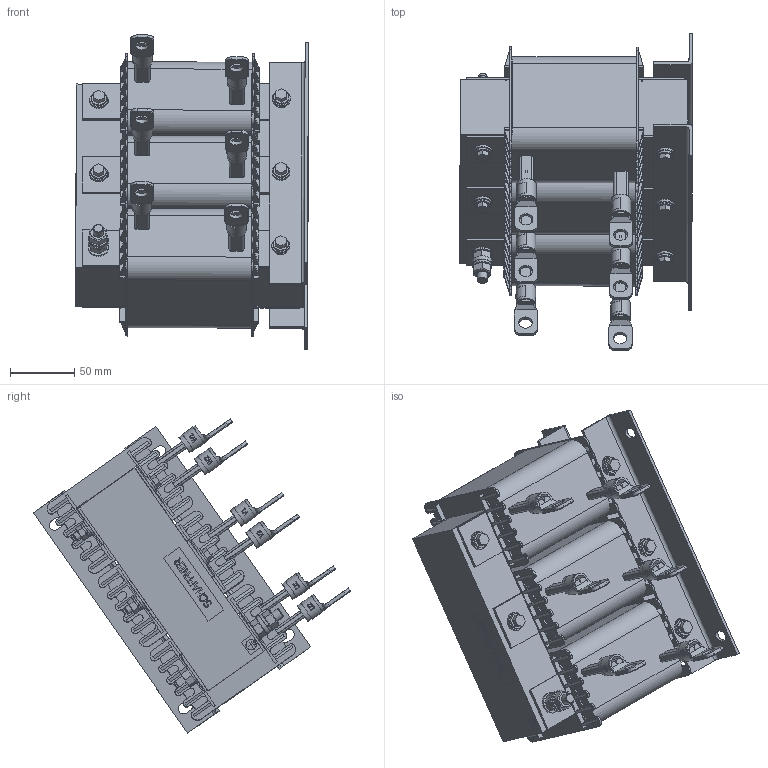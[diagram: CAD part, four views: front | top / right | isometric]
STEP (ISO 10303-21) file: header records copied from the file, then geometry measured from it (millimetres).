
FILE_DESCRIPTION((''),'2;1');
FILE_NAME('K:\PQ\Projects\RWK305\RWK305-182-KS_804-174\RWK305-182-KS\Drawing\RWK305-182-KS assembly.stp','2016-02-19T10:48:20',('jingli.yang'),(''),'Autodesk Inventor 2013','Autodesk Inventor 2013','');
FILE_SCHEMA(('AUTOMOTIVE_DESIGN { 1 0 10303 214 1 1 1 1 }'));
Length unit declared in the file: millimetre
Products named in the file (1): Part2
Bounding box: 181.54 x 247.78 x 245.13 mm (x, y, z)
Volume: 2475035.4 mm3; surface area: 383199.7 mm2
Topology: 1 solids, 8 shells, 2019 faces, 5359 edges, 3383 vertices
Faces by surface type: plane 1361, cylinder 489, bspline 115, cone 30, torus 24
Full cylindrical faces by diameter (mm): 6 x10, 6.1 x10, 6.4 x10, 7.6 x10, 7.9 x1, 8 x10, 8.4 x3, 8.5 x6, 9 x2, 10.716 x6, 12 x16, 14 x10, 15 x6, 16 x3
Entity records: 80272 total; most frequent: CARTESIAN_POINT 29085, ORIENTED_EDGE 10242, DIRECTION 9847, EDGE_CURVE 5169, VECTOR 3469, LINE 3469, VERTEX_POINT 3328, AXIS2_PLACEMENT_3D 3189
